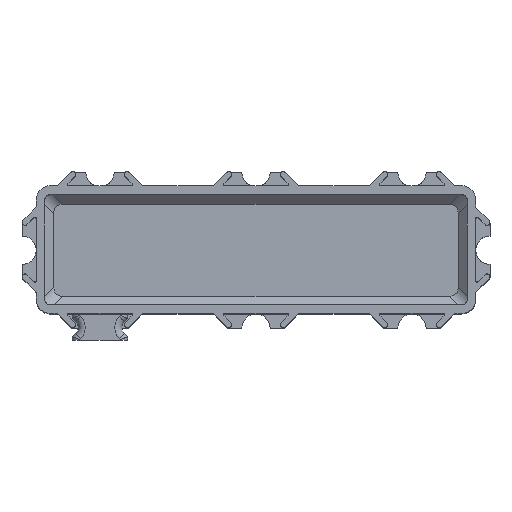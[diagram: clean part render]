
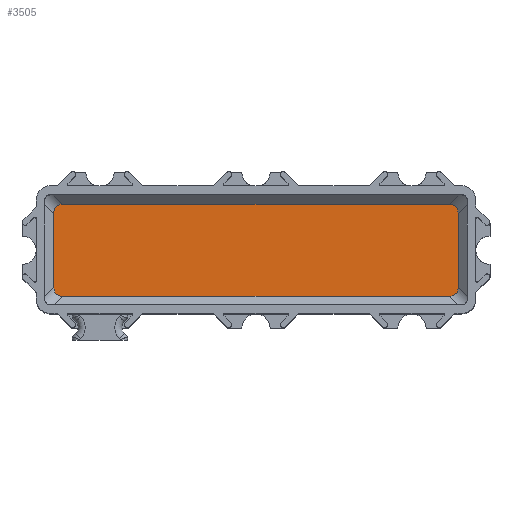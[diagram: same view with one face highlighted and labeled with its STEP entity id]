
A CAD part, top view. The second image highlights one B-rep face of the part: STEP entity #3505.
In plain terms, the highlighted planar face has unit normal (0, 0, 1).
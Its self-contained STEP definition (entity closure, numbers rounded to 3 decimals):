
#272=LINE('',#5752,#580);
#278=LINE('',#5781,#586);
#289=LINE('',#5840,#597);
#291=LINE('',#5843,#599);
#580=VECTOR('',#4707,10.);
#586=VECTOR('',#4727,10.);
#597=VECTOR('',#4764,10.);
#599=VECTOR('',#4768,10.);
#724=PLANE('',#3856);
#875=FACE_OUTER_BOUND('',#1055,.T.);
#1055=EDGE_LOOP('',(#2894,#2895,#2896,#2897,#2898,#2899,#2900,#2901));
#1138=ELLIPSE('',#3830,3.118,1.8);
#1142=ELLIPSE('',#3838,3.118,1.8);
#1145=ELLIPSE('',#3846,3.118,1.8);
#1147=ELLIPSE('',#3850,3.118,1.8);
#1538=VERTEX_POINT('',#5726);
#1539=VERTEX_POINT('',#5727);
#1544=VERTEX_POINT('',#5751);
#1547=VERTEX_POINT('',#5761);
#1550=VERTEX_POINT('',#5780);
#1554=VERTEX_POINT('',#5803);
#1558=VERTEX_POINT('',#5828);
#1559=VERTEX_POINT('',#5829);
#1984=EDGE_CURVE('',#1538,#1539,#1138,.T.);
#1992=EDGE_CURVE('',#1544,#1538,#272,.T.);
#1997=EDGE_CURVE('',#1547,#1544,#1142,.T.);
#2002=EDGE_CURVE('',#1550,#1547,#278,.T.);
#2009=EDGE_CURVE('',#1554,#1550,#1145,.T.);
#2015=EDGE_CURVE('',#1558,#1559,#1147,.T.);
#2021=EDGE_CURVE('',#1559,#1554,#289,.T.);
#2023=EDGE_CURVE('',#1539,#1558,#291,.T.);
#2894=ORIENTED_EDGE('',*,*,#1984,.T.);
#2895=ORIENTED_EDGE('',*,*,#2023,.T.);
#2896=ORIENTED_EDGE('',*,*,#2015,.T.);
#2897=ORIENTED_EDGE('',*,*,#2021,.T.);
#2898=ORIENTED_EDGE('',*,*,#2009,.T.);
#2899=ORIENTED_EDGE('',*,*,#2002,.T.);
#2900=ORIENTED_EDGE('',*,*,#1997,.T.);
#2901=ORIENTED_EDGE('',*,*,#1992,.T.);
#3505=ADVANCED_FACE('',(#875),#724,.F.);
#3830=AXIS2_PLACEMENT_3D('',#5728,#4693,#4694);
#3838=AXIS2_PLACEMENT_3D('',#5762,#4717,#4718);
#3846=AXIS2_PLACEMENT_3D('',#5804,#4740,#4741);
#3850=AXIS2_PLACEMENT_3D('',#5830,#4751,#4752);
#3856=AXIS2_PLACEMENT_3D('',#5844,#4769,#4770);
#4693=DIRECTION('center_axis',(0.,0.,1.));
#4694=DIRECTION('ref_axis',(-0.707,0.707,0.));
#4707=DIRECTION('',(-1.,0.,0.));
#4717=DIRECTION('center_axis',(0.,0.,1.));
#4718=DIRECTION('ref_axis',(0.707,0.707,0.));
#4727=DIRECTION('',(0.,1.,0.));
#4740=DIRECTION('center_axis',(0.,0.,1.));
#4741=DIRECTION('ref_axis',(0.707,-0.707,0.));
#4751=DIRECTION('center_axis',(0.,0.,1.));
#4752=DIRECTION('ref_axis',(-0.707,-0.707,0.));
#4764=DIRECTION('',(1.,0.,0.));
#4768=DIRECTION('',(0.,-1.,0.));
#4769=DIRECTION('center_axis',(0.,0.,-1.));
#4770=DIRECTION('ref_axis',(-1.,0.,0.));
#5726=CARTESIAN_POINT('',(5.77,17.503,-60.));
#5727=CARTESIAN_POINT('',(4.497,16.23,-60.));
#5728=CARTESIAN_POINT('Origin',(7.043,14.957,-60.));
#5751=CARTESIAN_POINT('',(60.23,17.503,-60.));
#5752=CARTESIAN_POINT('',(25.25,17.503,-60.));
#5761=CARTESIAN_POINT('',(61.503,16.23,-60.));
#5762=CARTESIAN_POINT('Origin',(58.957,14.957,-60.));
#5780=CARTESIAN_POINT('',(61.503,5.77,-60.));
#5781=CARTESIAN_POINT('',(61.503,13.25,-60.));
#5803=CARTESIAN_POINT('',(60.23,4.497,-60.));
#5804=CARTESIAN_POINT('Origin',(58.957,7.043,-60.));
#5828=CARTESIAN_POINT('',(4.497,5.77,-60.));
#5829=CARTESIAN_POINT('',(5.77,4.497,-60.));
#5830=CARTESIAN_POINT('Origin',(7.043,7.043,-60.));
#5840=CARTESIAN_POINT('',(40.75,4.497,-60.));
#5843=CARTESIAN_POINT('',(4.497,8.75,-60.));
#5844=CARTESIAN_POINT('Origin',(33.,11.,-60.));
